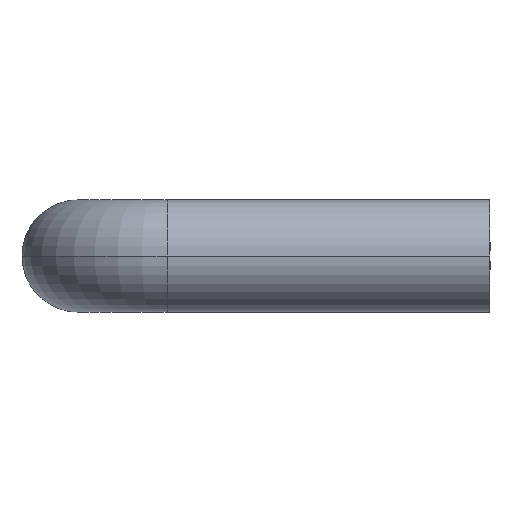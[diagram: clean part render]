
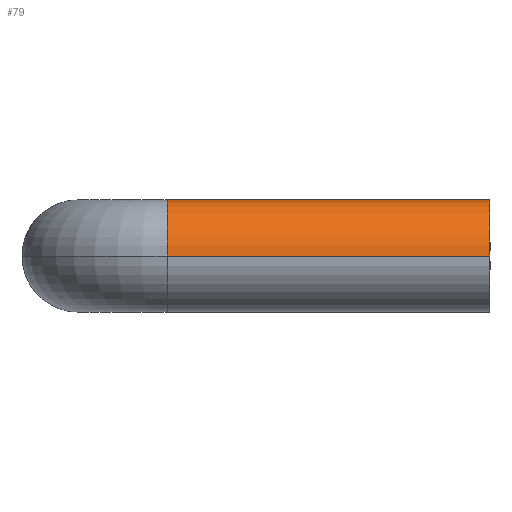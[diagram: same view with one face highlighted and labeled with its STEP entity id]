
A CAD part, left-side view. The second image highlights one B-rep face of the part: STEP entity #79.
In plain terms, the highlighted cylindrical face has radius 6 mm (diameter 12 mm), a partial arc.
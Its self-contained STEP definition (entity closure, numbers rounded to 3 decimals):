
#31 = VECTOR ( 'NONE', #365, 1000. ) ;
#32 = CIRCLE ( 'NONE', #493, 6. ) ;
#39 = VECTOR ( 'NONE', #354, 1000. ) ;
#41 = LINE ( 'NONE', #369, #31 ) ;
#45 = CIRCLE ( 'NONE', #481, 6. ) ;
#48 = CYLINDRICAL_SURFACE ( 'NONE', #484, 6. ) ;
#56 = FACE_OUTER_BOUND ( 'NONE', #177, .T. ) ;
#59 = LINE ( 'NONE', #355, #39 ) ;
#79 = ADVANCED_FACE ( 'NONE', ( #56 ), #48, .T. ) ;
#87 = ORIENTED_EDGE ( 'NONE', *, *, #211, .T. ) ;
#90 = ORIENTED_EDGE ( 'NONE', *, *, #217, .T. ) ;
#93 = ORIENTED_EDGE ( 'NONE', *, *, #212, .F. ) ;
#153 = VERTEX_POINT ( 'NONE', #335 ) ;
#157 = VERTEX_POINT ( 'NONE', #337 ) ;
#170 = VERTEX_POINT ( 'NONE', #349 ) ;
#172 = VERTEX_POINT ( 'NONE', #351 ) ;
#177 = EDGE_LOOP ( 'NONE', ( #262, #90, #87, #93 ) ) ;
#211 = EDGE_CURVE ( 'NONE', #157, #153, #45, .T. ) ;
#212 = EDGE_CURVE ( 'NONE', #172, #153, #59, .T. ) ;
#217 = EDGE_CURVE ( 'NONE', #170, #157, #41, .T. ) ;
#218 = EDGE_CURVE ( 'NONE', #170, #172, #32, .T. ) ;
#262 = ORIENTED_EDGE ( 'NONE', *, *, #218, .F. ) ;
#314 = DIRECTION ( 'NONE',  ( 1., 0., 0. ) ) ;
#315 = CARTESIAN_POINT ( 'NONE',  ( -119., -9.5, 0. ) ) ;
#316 = DIRECTION ( 'NONE',  ( 0., -1., 0. ) ) ;
#335 = CARTESIAN_POINT ( 'NONE',  ( -113., -44., 0. ) ) ;
#337 = CARTESIAN_POINT ( 'NONE',  ( -125., -44., 0. ) ) ;
#349 = CARTESIAN_POINT ( 'NONE',  ( -125., -9.5, 0. ) ) ;
#351 = CARTESIAN_POINT ( 'NONE',  ( -113., -9.5, 0. ) ) ;
#354 = DIRECTION ( 'NONE',  ( 0., -1., 0. ) ) ;
#355 = CARTESIAN_POINT ( 'NONE',  ( -113., -9.5, 0. ) ) ;
#356 = CARTESIAN_POINT ( 'NONE',  ( -119., -44., 0. ) ) ;
#357 = DIRECTION ( 'NONE',  ( 0., 1., 0. ) ) ;
#358 = DIRECTION ( 'NONE',  ( -1., 0., 0. ) ) ;
#365 = DIRECTION ( 'NONE',  ( 0., -1., 0. ) ) ;
#369 = CARTESIAN_POINT ( 'NONE',  ( -125., -9.5, 0. ) ) ;
#374 = CARTESIAN_POINT ( 'NONE',  ( -119., -9.5, 0. ) ) ;
#375 = DIRECTION ( 'NONE',  ( 0., 1., 0. ) ) ;
#376 = DIRECTION ( 'NONE',  ( -1., 0., 0. ) ) ;
#481 = AXIS2_PLACEMENT_3D ( 'NONE', #356, #357, #358 ) ;
#484 = AXIS2_PLACEMENT_3D ( 'NONE', #315, #316, #314 ) ;
#493 = AXIS2_PLACEMENT_3D ( 'NONE', #374, #375, #376 ) ;
